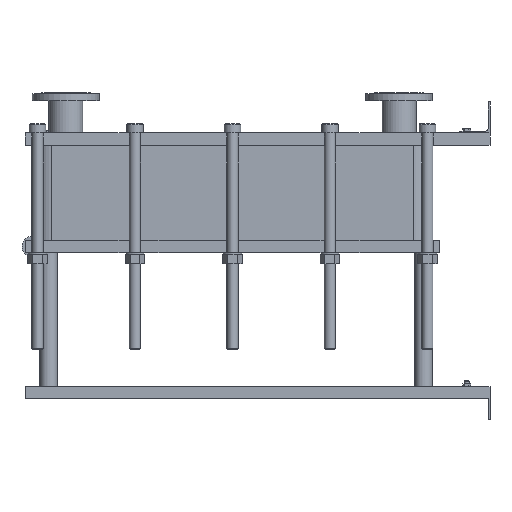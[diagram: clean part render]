
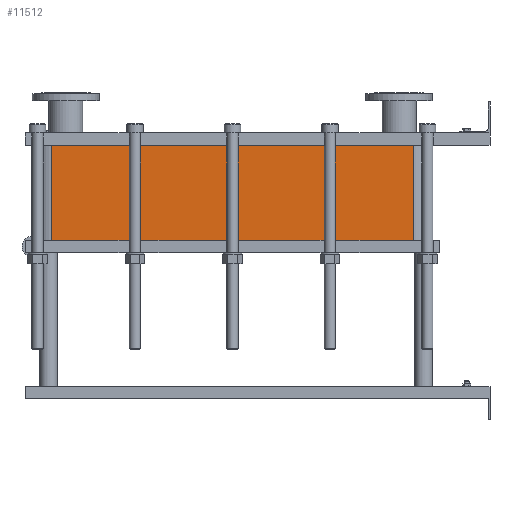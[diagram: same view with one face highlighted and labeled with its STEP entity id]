
A CAD part, left-side view. The second image highlights one B-rep face of the part: STEP entity #11512.
In plain terms, the highlighted planar face has unit normal (-1, 0, 0).
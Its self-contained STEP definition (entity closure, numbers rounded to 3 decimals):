
#1129=LINE('',#23232,#2102);
#1130=LINE('',#23236,#2103);
#1131=LINE('',#23238,#2104);
#1132=LINE('',#23239,#2105);
#2102=VECTOR('',#15887,10.);
#2103=VECTOR('',#15892,10.);
#2104=VECTOR('',#15893,10.);
#2105=VECTOR('',#15894,10.);
#3267=FACE_OUTER_BOUND('',#4093,.T.);
#4093=EDGE_LOOP('',(#10103,#10104,#10105,#10106));
#5642=VERTEX_POINT('',#23229);
#5643=VERTEX_POINT('',#23231);
#5644=VERTEX_POINT('',#23235);
#5645=VERTEX_POINT('',#23237);
#7159=EDGE_CURVE('',#5643,#5642,#1129,.T.);
#7161=EDGE_CURVE('',#5642,#5644,#1130,.T.);
#7162=EDGE_CURVE('',#5645,#5644,#1131,.T.);
#7163=EDGE_CURVE('',#5645,#5643,#1132,.T.);
#10103=ORIENTED_EDGE('',*,*,#7161,.T.);
#10104=ORIENTED_EDGE('',*,*,#7162,.F.);
#10105=ORIENTED_EDGE('',*,*,#7163,.T.);
#10106=ORIENTED_EDGE('',*,*,#7159,.T.);
#10857=PLANE('',#12751);
#11512=ADVANCED_FACE('',(#3267),#10857,.T.);
#12751=AXIS2_PLACEMENT_3D('',#23234,#15890,#15891);
#15887=DIRECTION('',(0.,0.,-1.));
#15890=DIRECTION('center_axis',(-1.,0.,0.));
#15891=DIRECTION('ref_axis',(0.,1.,0.));
#15892=DIRECTION('',(0.,-1.,0.));
#15893=DIRECTION('',(0.,0.,-1.));
#15894=DIRECTION('',(0.,1.,0.));
#23229=CARTESIAN_POINT('',(-200.,1414.,-307.05));
#23231=CARTESIAN_POINT('',(-200.,1414.,0.));
#23232=CARTESIAN_POINT('',(-200.,1414.,0.));
#23234=CARTESIAN_POINT('Origin',(-200.,248.,0.));
#23235=CARTESIAN_POINT('',(-200.,248.,-307.05));
#23236=CARTESIAN_POINT('',(-200.,539.5,-307.05));
#23237=CARTESIAN_POINT('',(-200.,248.,0.));
#23238=CARTESIAN_POINT('',(-200.,248.,0.));
#23239=CARTESIAN_POINT('',(-200.,248.,0.));
